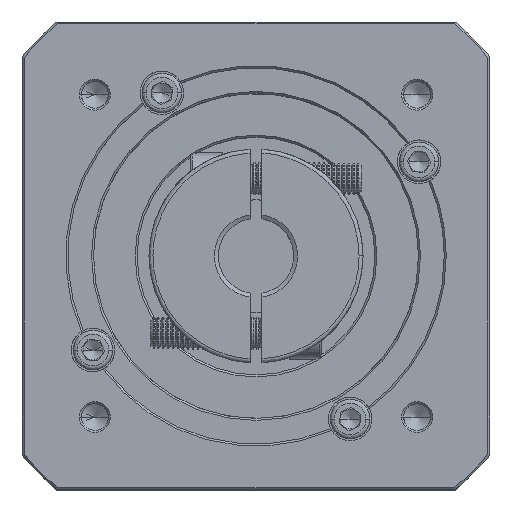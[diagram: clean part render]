
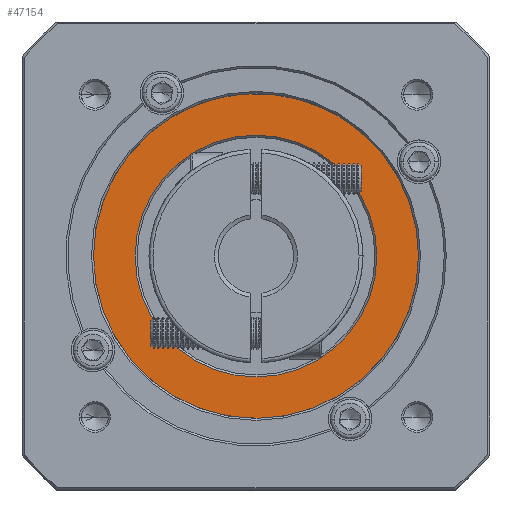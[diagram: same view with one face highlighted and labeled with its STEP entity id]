
A CAD part, top view. The second image highlights one B-rep face of the part: STEP entity #47154.
In plain terms, the highlighted planar face has unit normal (0, 0, 1).
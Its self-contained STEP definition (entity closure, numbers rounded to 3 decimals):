
#1694 = AXIS2_PLACEMENT_3D ( 'NONE', #2534, #69060, #12050 ) ;
#2171 = CARTESIAN_POINT ( 'NONE',  ( 50.335, 124.67, -1.811 ) ) ;
#2534 = CARTESIAN_POINT ( 'NONE',  ( 50.335, 124.67, -1.811 ) ) ;
#4202 = ORIENTED_EDGE ( 'NONE', *, *, #111293, .T. ) ;
#5441 = CARTESIAN_POINT ( 'NONE',  ( 50.335, 124.67, -1.811 ) ) ;
#8962 = DIRECTION ( 'NONE',  ( 0., 0., 1. ) ) ;
#10606 = FACE_OUTER_BOUND ( 'NONE', #33779, .T. ) ;
#11664 = DIRECTION ( 'NONE',  ( 1., 0., 0. ) ) ;
#12050 = DIRECTION ( 'NONE',  ( 1., 0., 0. ) ) ;
#15015 = DIRECTION ( 'NONE',  ( 1., 0., 0. ) ) ;
#15848 = CARTESIAN_POINT ( 'NONE',  ( 50.335, 124.67, -1.811 ) ) ;
#17862 = CIRCLE ( 'NONE', #102448, 41. ) ;
#18720 = EDGE_CURVE ( 'NONE', #46164, #50558, #42301, .T. ) ;
#19207 = VERTEX_POINT ( 'NONE', #37741 ) ;
#20640 = ORIENTED_EDGE ( 'NONE', *, *, #110777, .T. ) ;
#21262 = EDGE_CURVE ( 'NONE', #50558, #66628, #117087, .T. ) ;
#23595 = ORIENTED_EDGE ( 'NONE', *, *, #18720, .T. ) ;
#25452 = DIRECTION ( 'NONE',  ( 1., 0., 0. ) ) ;
#26346 = CARTESIAN_POINT ( 'NONE',  ( 50.335, 124.67, -1.811 ) ) ;
#26780 = ORIENTED_EDGE ( 'NONE', *, *, #77250, .T. ) ;
#26869 = DIRECTION ( 'NONE',  ( 0., 0., -1. ) ) ;
#29865 = DIRECTION ( 'NONE',  ( 0., 0., 1. ) ) ;
#31780 = CARTESIAN_POINT ( 'NONE',  ( 18.57, 150.593, -1.811 ) ) ;
#33779 = EDGE_LOOP ( 'NONE', ( #20640, #81449, #23595, #50594, #94587, #75468 ) ) ;
#33789 = AXIS2_PLACEMENT_3D ( 'NONE', #83753, #26869, #93339 ) ;
#34164 = CARTESIAN_POINT ( 'NONE',  ( 9.335, 124.67, -1.811 ) ) ;
#35865 = DIRECTION ( 'NONE',  ( 1., 0., 0. ) ) ;
#36819 = VERTEX_POINT ( 'NONE', #34164 ) ;
#37741 = CARTESIAN_POINT ( 'NONE',  ( 19.835, 124.67, -1.811 ) ) ;
#39253 = CIRCLE ( 'NONE', #105107, 41. ) ;
#42301 = CIRCLE ( 'NONE', #1694, 41. ) ;
#46164 = VERTEX_POINT ( 'NONE', #72511 ) ;
#46243 = CARTESIAN_POINT ( 'NONE',  ( 50.335, 124.67, -1.811 ) ) ;
#47154 = ADVANCED_FACE ( 'NONE', ( #10606, #58299 ), #77439, .T. ) ;
#50558 = VERTEX_POINT ( 'NONE', #31780 ) ;
#50594 = ORIENTED_EDGE ( 'NONE', *, *, #21262, .T. ) ;
#50643 = AXIS2_PLACEMENT_3D ( 'NONE', #46243, #112684, #55814 ) ;
#54298 = EDGE_CURVE ( 'NONE', #66628, #36819, #39253, .T. ) ;
#55814 = DIRECTION ( 'NONE',  ( 1., 0., 0. ) ) ;
#58299 = FACE_BOUND ( 'NONE', #90579, .T. ) ;
#65521 = CIRCLE ( 'NONE', #33789, 30.5 ) ;
#65978 = CARTESIAN_POINT ( 'NONE',  ( 50.335, 124.67, -1.811 ) ) ;
#66628 = VERTEX_POINT ( 'NONE', #70820 ) ;
#68685 = DIRECTION ( 'NONE',  ( 0., 0., 1. ) ) ;
#69060 = DIRECTION ( 'NONE',  ( 0., 0., 1. ) ) ;
#70820 = CARTESIAN_POINT ( 'NONE',  ( 11.477, 137.748, -1.811 ) ) ;
#72002 = DIRECTION ( 'NONE',  ( 0., 0., 1. ) ) ;
#72305 = AXIS2_PLACEMENT_3D ( 'NONE', #26346, #92836, #35865 ) ;
#72511 = CARTESIAN_POINT ( 'NONE',  ( 91.335, 124.67, -1.811 ) ) ;
#75468 = ORIENTED_EDGE ( 'NONE', *, *, #104386, .T. ) ;
#75539 = EDGE_CURVE ( 'NONE', #103695, #46164, #79685, .T. ) ;
#75543 = DIRECTION ( 'NONE',  ( 1., 0., 0. ) ) ;
#77250 = EDGE_CURVE ( 'NONE', #94994, #19207, #65521, .T. ) ;
#77439 = PLANE ( 'NONE',  #122033 ) ;
#79685 = CIRCLE ( 'NONE', #87639, 41. ) ;
#81449 = ORIENTED_EDGE ( 'NONE', *, *, #75539, .T. ) ;
#82329 = DIRECTION ( 'NONE',  ( 0., 0., 1. ) ) ;
#83753 = CARTESIAN_POINT ( 'NONE',  ( 50.335, 124.67, -1.811 ) ) ;
#86754 = CARTESIAN_POINT ( 'NONE',  ( 50.335, 124.67, -1.811 ) ) ;
#87639 = AXIS2_PLACEMENT_3D ( 'NONE', #86754, #29865, #96318 ) ;
#90579 = EDGE_LOOP ( 'NONE', ( #26780, #4202 ) ) ;
#92522 = CARTESIAN_POINT ( 'NONE',  ( 89.194, 111.593, -1.811 ) ) ;
#92836 = DIRECTION ( 'NONE',  ( 0., 0., -1. ) ) ;
#93339 = DIRECTION ( 'NONE',  ( 1., 0., 0. ) ) ;
#94587 = ORIENTED_EDGE ( 'NONE', *, *, #54298, .T. ) ;
#94994 = VERTEX_POINT ( 'NONE', #111078 ) ;
#96318 = DIRECTION ( 'NONE',  ( 1., 0., 0. ) ) ;
#102448 = AXIS2_PLACEMENT_3D ( 'NONE', #65978, #8962, #75543 ) ;
#103357 = CARTESIAN_POINT ( 'NONE',  ( 82.1, 98.748, -1.811 ) ) ;
#103695 = VERTEX_POINT ( 'NONE', #92522 ) ;
#104386 = EDGE_CURVE ( 'NONE', #36819, #113041, #123052, .T. ) ;
#105107 = AXIS2_PLACEMENT_3D ( 'NONE', #15848, #82329, #25452 ) ;
#110777 = EDGE_CURVE ( 'NONE', #113041, #103695, #17862, .T. ) ;
#111078 = CARTESIAN_POINT ( 'NONE',  ( 80.835, 124.67, -1.811 ) ) ;
#111293 = EDGE_CURVE ( 'NONE', #19207, #94994, #117343, .T. ) ;
#112684 = DIRECTION ( 'NONE',  ( 0., 0., 1. ) ) ;
#113041 = VERTEX_POINT ( 'NONE', #103357 ) ;
#116431 = AXIS2_PLACEMENT_3D ( 'NONE', #5441, #72002, #15015 ) ;
#117087 = CIRCLE ( 'NONE', #116431, 41. ) ;
#117343 = CIRCLE ( 'NONE', #72305, 30.5 ) ;
#122033 = AXIS2_PLACEMENT_3D ( 'NONE', #2171, #68685, #11664 ) ;
#123052 = CIRCLE ( 'NONE', #50643, 41. ) ;
